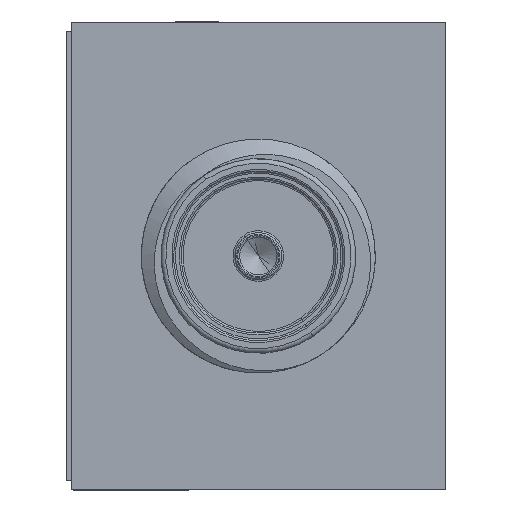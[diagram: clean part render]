
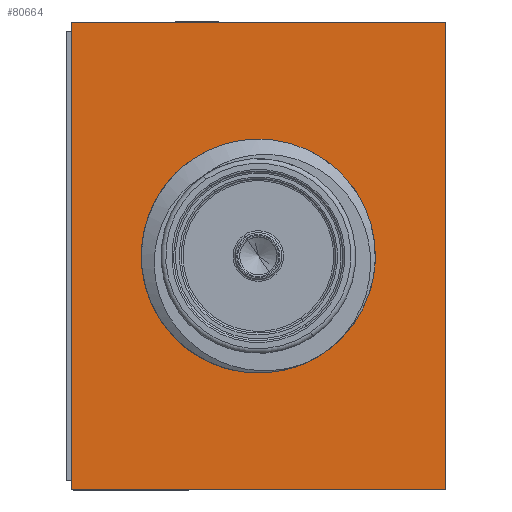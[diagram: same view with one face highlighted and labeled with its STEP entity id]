
A CAD part, left-side view. The second image highlights one B-rep face of the part: STEP entity #80664.
In plain terms, the highlighted planar face has unit normal (-1, 0, 0).
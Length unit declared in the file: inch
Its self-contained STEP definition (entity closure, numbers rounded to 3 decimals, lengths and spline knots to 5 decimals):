
#350 = ORIENTED_EDGE ( 'NONE', *, *, #39863, .F. ) ;
#833 = EDGE_LOOP ( 'NONE', ( #56966, #10578, #53421, #115823 ) ) ;
#3581 = EDGE_LOOP ( 'NONE', ( #350, #42699 ) ) ;
#4712 = VECTOR ( 'NONE', #52532, 39.37008 ) ;
#6538 = VECTOR ( 'NONE', #72205, 39.37008 ) ;
#6906 = DIRECTION ( 'NONE',  ( -1., 0., 0. ) ) ;
#7858 = EDGE_CURVE ( 'NONE', #29228, #49609, #14636, .T. ) ;
#10434 = CARTESIAN_POINT ( 'NONE',  ( -1.73685, -0.16359, -0.67267 ) ) ;
#10578 = ORIENTED_EDGE ( 'NONE', *, *, #114812, .F. ) ;
#14195 = EDGE_CURVE ( 'NONE', #64220, #110799, #118403, .T. ) ;
#14636 = LINE ( 'NONE', #79887, #4712 ) ;
#21048 = AXIS2_PLACEMENT_3D ( 'NONE', #40365, #30472, #123166 ) ;
#29228 = VERTEX_POINT ( 'NONE', #88934 ) ;
#30472 = DIRECTION ( 'NONE',  ( -1., 0., 0. ) ) ;
#31648 = PLANE ( 'NONE',  #73890 ) ;
#36402 = CARTESIAN_POINT ( 'NONE',  ( -1.73685, -0.16359, -0.67267 ) ) ;
#36637 = CARTESIAN_POINT ( 'NONE',  ( -1.73685, -0.16359, -0.17267 ) ) ;
#39863 = EDGE_CURVE ( 'NONE', #110799, #64220, #54713, .T. ) ;
#40365 = CARTESIAN_POINT ( 'NONE',  ( -1.73685, 0.03641, -0.42267 ) ) ;
#42699 = ORIENTED_EDGE ( 'NONE', *, *, #14195, .F. ) ;
#44066 = VECTOR ( 'NONE', #70530, 39.37008 ) ;
#49609 = VERTEX_POINT ( 'NONE', #103495 ) ;
#52532 = DIRECTION ( 'NONE',  ( 0., 0., 1. ) ) ;
#53421 = ORIENTED_EDGE ( 'NONE', *, *, #91516, .T. ) ;
#54713 = CIRCLE ( 'NONE', #21048, 0.106 ) ;
#56966 = ORIENTED_EDGE ( 'NONE', *, *, #7858, .F. ) ;
#57284 = VECTOR ( 'NONE', #111078, 39.37008 ) ;
#58934 = FACE_OUTER_BOUND ( 'NONE', #833, .T. ) ;
#64220 = VERTEX_POINT ( 'NONE', #90738 ) ;
#67036 = CARTESIAN_POINT ( 'NONE',  ( -1.73685, -0.16359, -0.67267 ) ) ;
#68450 = EDGE_CURVE ( 'NONE', #69092, #49609, #118497, .T. ) ;
#69092 = VERTEX_POINT ( 'NONE', #36637 ) ;
#70530 = DIRECTION ( 'NONE',  ( 0., 1., 0. ) ) ;
#70972 = LINE ( 'NONE', #80345, #6538 ) ;
#71136 = CARTESIAN_POINT ( 'NONE',  ( -1.73685, -0.16359, -0.17267 ) ) ;
#72205 = DIRECTION ( 'NONE',  ( 0., 0., 1. ) ) ;
#73097 = LINE ( 'NONE', #36402, #57284 ) ;
#73890 = AXIS2_PLACEMENT_3D ( 'NONE', #67036, #96343, #77625 ) ;
#77625 = DIRECTION ( 'NONE',  ( 0., 0., 1. ) ) ;
#79887 = CARTESIAN_POINT ( 'NONE',  ( -1.73685, 0.23641, -0.67267 ) ) ;
#80345 = CARTESIAN_POINT ( 'NONE',  ( -1.73685, -0.16359, -0.67267 ) ) ;
#80664 = ADVANCED_FACE ( 'NONE', ( #98173, #58934 ), #31648, .T. ) ;
#87818 = VERTEX_POINT ( 'NONE', #10434 ) ;
#88934 = CARTESIAN_POINT ( 'NONE',  ( -1.73685, 0.23641, -0.67267 ) ) ;
#90738 = CARTESIAN_POINT ( 'NONE',  ( -1.73685, 0.03641, -0.52867 ) ) ;
#91516 = EDGE_CURVE ( 'NONE', #87818, #69092, #70972, .T. ) ;
#92716 = DIRECTION ( 'NONE',  ( 0., 0., 1. ) ) ;
#93970 = CARTESIAN_POINT ( 'NONE',  ( -1.73685, 0.03641, -0.42267 ) ) ;
#96343 = DIRECTION ( 'NONE',  ( -1., 0., 0. ) ) ;
#98173 = FACE_BOUND ( 'NONE', #3581, .T. ) ;
#103495 = CARTESIAN_POINT ( 'NONE',  ( -1.73685, 0.23641, -0.17267 ) ) ;
#110799 = VERTEX_POINT ( 'NONE', #123069 ) ;
#111078 = DIRECTION ( 'NONE',  ( 0., 1., 0. ) ) ;
#114812 = EDGE_CURVE ( 'NONE', #87818, #29228, #73097, .T. ) ;
#115823 = ORIENTED_EDGE ( 'NONE', *, *, #68450, .T. ) ;
#118403 = CIRCLE ( 'NONE', #122415, 0.106 ) ;
#118497 = LINE ( 'NONE', #71136, #44066 ) ;
#122415 = AXIS2_PLACEMENT_3D ( 'NONE', #93970, #6906, #92716 ) ;
#123069 = CARTESIAN_POINT ( 'NONE',  ( -1.73685, 0.03641, -0.31667 ) ) ;
#123166 = DIRECTION ( 'NONE',  ( 0., 0., 1. ) ) ;
